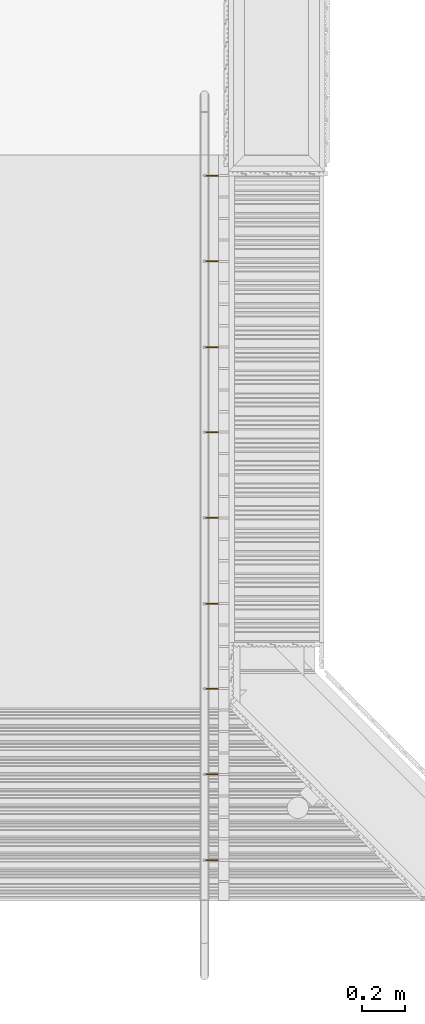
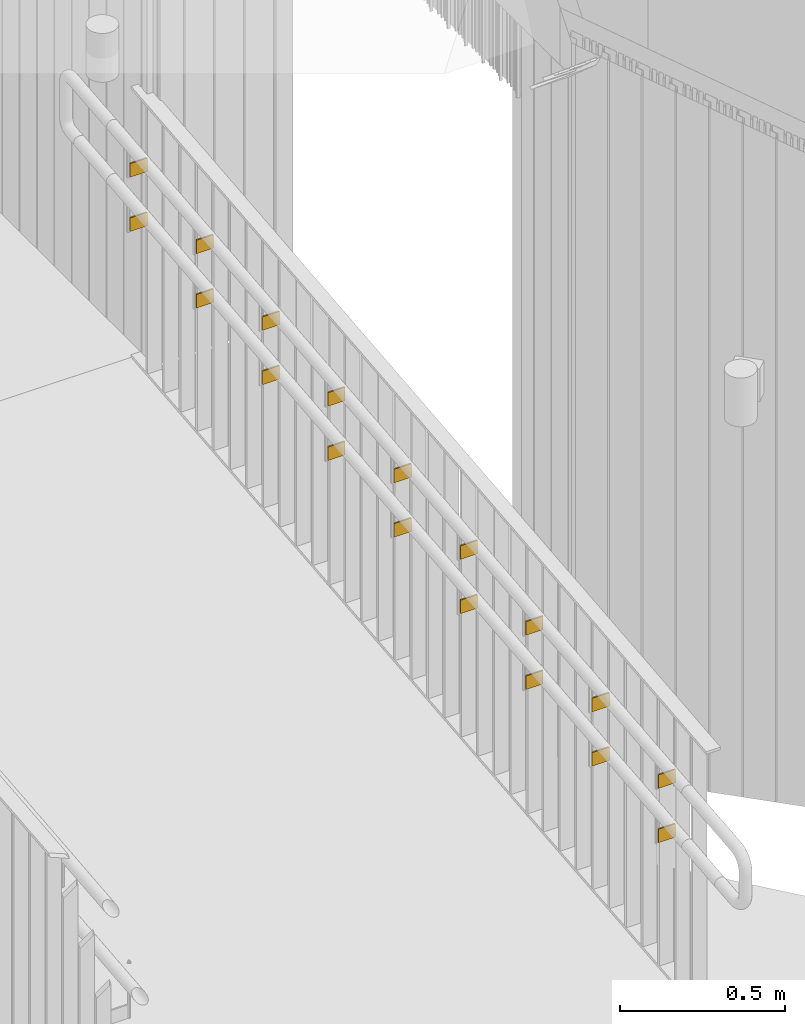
# One storey, part 166 of 418: 18 railings.
"""IFC2X3 building model written with IfcOpenShell, lengths in millimetres."""

from ifc_helpers import new_model, entity, si_unit, converted_unit, derived_unit, money_unit, direction, frame, origin_with_axes, place, context, subcontext, project, spatial, polyline, outline, extrude, material, type_object, element, save


model = new_model("IFC2X3")

# Units and contexts
model_context = context("Model", 3, precision=0.01, world=origin_with_axes(), true_north=direction((0.0, 1.0)))
body_context = subcontext(model_context, "Body", "Model", "MODEL_VIEW")
ifc_project = project(units=[si_unit("LENGTHUNIT", "METRE", prefix="MILLI"), si_unit("AREAUNIT", "SQUARE_METRE"), si_unit("VOLUMEUNIT", "CUBIC_METRE"), converted_unit("PLANEANGLEUNIT", "DEGREE", entity("IfcPlaneAngleMeasure", 0.0174532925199), si_unit("PLANEANGLEUNIT", "RADIAN"), dimensions=[0, 0, 0, 0, 0, 0, 0]), si_unit("SOLIDANGLEUNIT", "STERADIAN"), money_unit("EUR"), converted_unit("TIMEUNIT", "Year", entity("IfcTimeMeasure", 31556926.0), si_unit("TIMEUNIT", "SECOND"), dimensions=[0, 0, 1, 0, 0, 0, 0]), si_unit("MASSUNIT", "GRAM", prefix="KILO"), si_unit("THERMODYNAMICTEMPERATUREUNIT", "DEGREE_CELSIUS"), si_unit("LUMINOUSINTENSITYUNIT", "LUMEN"), si_unit("ENERGYUNIT", "JOULE", prefix="MEGA"), derived_unit("THERMALCONDUCTANCEUNIT", [(si_unit("POWERUNIT", "WATT"), 1), (si_unit("LENGTHUNIT", "METRE"), -1), (si_unit("THERMODYNAMICTEMPERATUREUNIT", "KELVIN"), -1)]), derived_unit("SPECIFICHEATCAPACITYUNIT", [(si_unit("ENERGYUNIT", "JOULE"), 1), (si_unit("MASSUNIT", "GRAM", prefix="KILO"), -1), (si_unit("THERMODYNAMICTEMPERATUREUNIT", "KELVIN"), -1)]), derived_unit("MASSDENSITYUNIT", [(si_unit("MASSUNIT", "GRAM", prefix="KILO"), 1), (si_unit("VOLUMEUNIT", "CUBIC_METRE"), -1)])], contexts=[model_context])

# Site, building, storey
site_placement = place(None, origin_with_axes())
site = spatial("IfcSite", under=ifc_project, at=site_placement, Name="Paldiski mnt 245/1, Tallinn, Harjumaa", CompositionType="COMPLEX")
building_placement = place(site_placement, origin_with_axes())
building = spatial("IfcBuilding", under=site, at=building_placement, Name="RKAS Hoone üldnimetus (kasutust iseloomustav) -> IFC Project Manager -> SOLIBRI", CompositionType="ELEMENT")
storey_placement = place(building_placement, origin_with_axes())
storey = spatial("IfcBuildingStorey", under=building, at=storey_placement, Name="Esimene korrus", CompositionType="ELEMENT", Elevation=0.0)

# Railings
ifc_material = material(Name="RAL7016")
railing_type = type_object("IfcRailingType", Name="RAL7016 50", PredefinedType="NOTDEFINED")
for number, where, z_axis, x_axis in (
    (1, (-38840.9992191, -15722.5843011, 734.800460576), (0.0, 0.0, 1.0), (1.0, 0.0, 0.0)),
    (2, (-38840.9992191, -15722.5843011, 534.378560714), (0.0, 0.0, 1.0), (1.0, 0.0, 0.0)),
):
    element("IfcRailing", number, at=place(storey_placement, frame(where, z_axis=z_axis, x_axis=x_axis)), inside=storey, type_object=railing_type, material=ifc_material, Name="Piire", PredefinedType="NOTDEFINED", context=body_context, shape_type="SweptSolid", body=[
        extrude(outline(polyline([(0.0, 0.0), (-60.0, 0.0), (-60.0, -4.99999999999), (0.0, -5.0), (0.0, 0.0)])), frame((0.0, 0.0, -50.0), z_axis=(0.0, 0.0, 1.0), x_axis=(1.0, 0.0, 0.0)), (0.0, 0.0, 1.0), 50.0),
    ])
railing_1_placement = place(storey_placement, frame((-38840.9992191, -17714.5843011, 335.178432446), z_axis=(0.0, 0.0, 1.0), x_axis=(1.0, 0.0, 0.0)))
element("IfcRailing", 3, at=railing_1_placement, inside=storey, type_object=railing_type, material=ifc_material, Name="Piire", PredefinedType="NOTDEFINED", context=body_context, shape_type="SweptSolid", body=[
    extrude(outline(polyline([(0.0, 0.0), (-60.0, 0.0), (-60.0, -4.99999999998), (0.0, -4.99999999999), (0.0, 0.0)])), frame((0.0, 0.0, -50.0), z_axis=(0.0, 0.0, 1.0), x_axis=(1.0, 0.0, 0.0)), (0.0, 0.0, 1.0), 50.0),
])
for number, where, z_axis, x_axis in (
    (4, (-38840.9992191, -18514.5843011, 255.178379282), (0.0, 0.0, 1.0), (1.0, 0.0, 0.0)),
    (5, (-38840.9992191, -18514.5843011, 455.600279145), (0.0, 0.0, 1.0), (1.0, 0.0, 0.0)),
):
    element("IfcRailing", number, at=place(storey_placement, frame(where, z_axis=z_axis, x_axis=x_axis)), inside=storey, type_object=railing_type, material=ifc_material, Name="Piire", PredefinedType="NOTDEFINED", context=body_context, shape_type="SweptSolid", body=[
        extrude(outline(polyline([(0.0, 0.0), (-60.0, 0.0), (-60.0, -4.99999999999), (0.0, -5.0), (0.0, 0.0)])), frame((0.0, 0.0, -50.0), z_axis=(0.0, 0.0, 1.0), x_axis=(1.0, 0.0, 0.0)), (0.0, 0.0, 1.0), 50.0),
    ])
railing_2_placement = place(storey_placement, frame((-38840.9992191, -17714.5843011, 535.600332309), z_axis=(0.0, 0.0, 1.0), x_axis=(1.0, 0.0, 0.0)))
element("IfcRailing", 6, at=railing_2_placement, inside=storey, type_object=railing_type, material=ifc_material, Name="Piire", PredefinedType="NOTDEFINED", context=body_context, shape_type="SweptSolid", body=[
    extrude(outline(polyline([(0.0, 0.0), (-60.0, 0.0), (-60.0, -4.99999999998), (0.0, -4.99999999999), (0.0, 0.0)])), frame((0.0, 0.0, -50.0), z_axis=(0.0, 0.0, 1.0), x_axis=(1.0, 0.0, 0.0)), (0.0, 0.0, 1.0), 50.0),
])
for number, where, z_axis, x_axis in (
    (7, (-38840.9992191, -15322.5843011, 574.378591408), (0.0, 0.0, 1.0), (1.0, 0.0, 0.0)),
    (8, (-38840.9992191, -15322.5843011, 774.80049127), (0.0, 0.0, 1.0), (1.0, 0.0, 0.0)),
):
    element("IfcRailing", number, at=place(storey_placement, frame(where, z_axis=z_axis, x_axis=x_axis)), inside=storey, type_object=railing_type, material=ifc_material, Name="Piire", PredefinedType="NOTDEFINED", context=body_context, shape_type="SweptSolid", body=[
        extrude(outline(polyline([(0.0, 0.0), (-60.0, 0.0), (-60.0, -4.99999999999), (0.0, -4.99999999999), (0.0, 0.0)])), frame((0.0, 0.0, -50.0), z_axis=(0.0, 0.0, 1.0), x_axis=(1.0, 0.0, 0.0)), (0.0, 0.0, 1.0), 50.0),
    ])
for number, where, z_axis, x_axis in (
    (9, (-38840.9992191, -16518.5843011, 454.778511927), (0.0, 0.0, 1.0), (1.0, 0.0, 0.0)),
    (10, (-38840.9992191, -16518.5843011, 655.200411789), (0.0, 0.0, 1.0), (1.0, 0.0, 0.0)),
):
    element("IfcRailing", number, at=place(storey_placement, frame(where, z_axis=z_axis, x_axis=x_axis)), inside=storey, type_object=railing_type, material=ifc_material, Name="Piire", PredefinedType="NOTDEFINED", context=body_context, shape_type="SweptSolid", body=[
        extrude(outline(polyline([(0.0, 0.0), (-60.0, 0.0), (-60.0, -4.99999999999), (0.0, -5.0), (0.0, 0.0)])), frame((0.0, 0.0, -50.0), z_axis=(0.0, 0.0, 1.0), x_axis=(1.0, 0.0, 0.0)), (0.0, 0.0, 1.0), 50.0),
    ])
for number, where, z_axis, x_axis in (
    (11, (-38840.9992191, -16122.5843011, 494.378538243), (0.0, 0.0, 1.0), (1.0, 0.0, 0.0)),
    (12, (-38840.9992191, -16122.5843011, 694.800438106), (0.0, 0.0, 1.0), (1.0, 0.0, 0.0)),
):
    element("IfcRailing", number, at=place(storey_placement, frame(where, z_axis=z_axis, x_axis=x_axis)), inside=storey, type_object=railing_type, material=ifc_material, Name="Piire", PredefinedType="NOTDEFINED", context=body_context, shape_type="SweptSolid", body=[
        extrude(outline(polyline([(0.0, 0.0), (-60.0, 0.0), (-60.0, -4.99999999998), (0.0, -4.99999999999), (0.0, 0.0)])), frame((0.0, 0.0, -50.0), z_axis=(0.0, 0.0, 1.0), x_axis=(1.0, 0.0, 0.0)), (0.0, 0.0, 1.0), 50.0),
    ])
for number, where, z_axis, x_axis in (
    (13, (-38840.9992191, -17318.5843011, 374.778454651), (0.0, 0.0, 1.0), (1.0, 0.0, 0.0)),
    (14, (-38840.9992191, -17318.5843011, 575.200354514), (0.0, 0.0, 1.0), (1.0, 0.0, 0.0)),
):
    element("IfcRailing", number, at=place(storey_placement, frame(where, z_axis=z_axis, x_axis=x_axis)), inside=storey, type_object=railing_type, material=ifc_material, Name="Piire", PredefinedType="NOTDEFINED", context=body_context, shape_type="SweptSolid", body=[
        extrude(outline(polyline([(0.0, 0.0), (-60.0, 0.0), (-60.0, -4.99999999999), (0.0, -4.99999999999), (0.0, 0.0)])), frame((0.0, 0.0, -50.0), z_axis=(0.0, 0.0, 1.0), x_axis=(1.0, 0.0, 0.0)), (0.0, 0.0, 1.0), 50.0),
    ])
for number, where, z_axis, x_axis in (
    (15, (-38840.9992191, -16918.5843011, 414.778485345), (0.0, 0.0, 1.0), (1.0, 0.0, 0.0)),
    (16, (-38840.9992191, -16918.5843011, 615.200385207), (0.0, 0.0, 1.0), (1.0, 0.0, 0.0)),
):
    element("IfcRailing", number, at=place(storey_placement, frame(where, z_axis=z_axis, x_axis=x_axis)), inside=storey, type_object=railing_type, material=ifc_material, Name="Piire", PredefinedType="NOTDEFINED", context=body_context, shape_type="SweptSolid", body=[
        extrude(outline(polyline([(0.0, 0.0), (-60.0, 0.0), (-60.0, -4.99999999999), (0.0, -5.0), (0.0, 0.0)])), frame((0.0, 0.0, -50.0), z_axis=(0.0, 0.0, 1.0), x_axis=(1.0, 0.0, 0.0)), (0.0, 0.0, 1.0), 50.0),
    ])
for number, where, z_axis, x_axis in (
    (17, (-38840.9992191, -18114.5843011, 295.178401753), (0.0, 0.0, 1.0), (1.0, 0.0, 0.0)),
    (18, (-38840.9992191, -18114.5843011, 495.600301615), (0.0, 0.0, 1.0), (1.0, 0.0, 0.0)),
):
    element("IfcRailing", number, at=place(storey_placement, frame(where, z_axis=z_axis, x_axis=x_axis)), inside=storey, type_object=railing_type, material=ifc_material, Name="Piire", PredefinedType="NOTDEFINED", context=body_context, shape_type="SweptSolid", body=[
        extrude(outline(polyline([(0.0, 0.0), (-60.0, 0.0), (-60.0, -4.99999999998), (0.0, -5.0), (0.0, 0.0)])), frame((0.0, 0.0, -50.0), z_axis=(0.0, 0.0, 1.0), x_axis=(1.0, 0.0, 0.0)), (0.0, 0.0, 1.0), 50.0),
    ])

save(model, "model.ifc")
